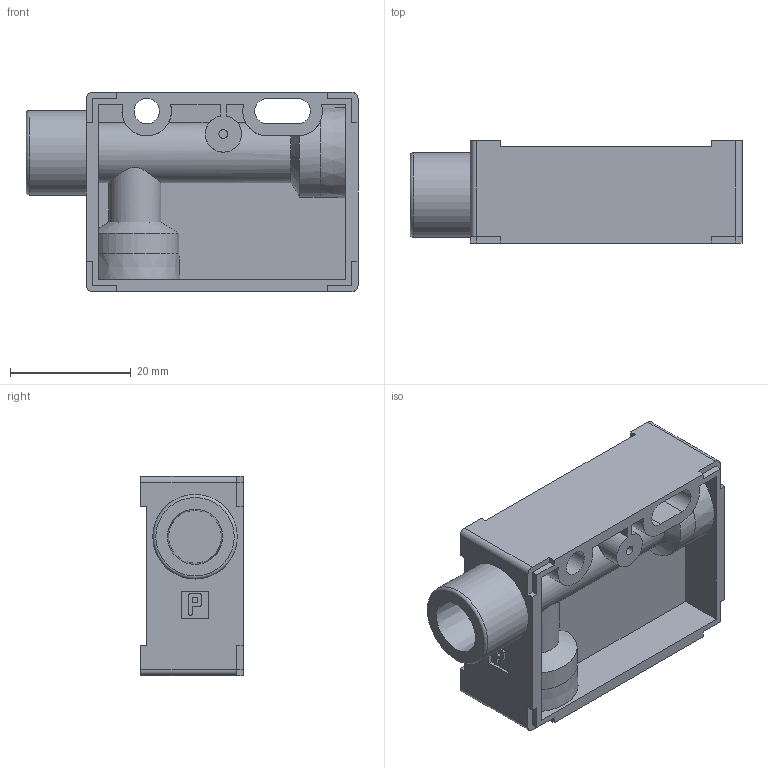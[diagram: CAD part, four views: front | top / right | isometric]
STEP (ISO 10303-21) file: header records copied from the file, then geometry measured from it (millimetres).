
FILE_DESCRIPTION(('STEP AP203'),'1');
FILE_NAME('_3D.stp','2022-12-22T08:41:27',(' '),(' '),'Spatial InterOp 3D',' ',' ');
FILE_SCHEMA(('CONFIG_CONTROL_DESIGN'));
Length unit declared in the file: millimetre
Products named in the file (1): 1
Bounding box: 55 x 17 x 33 mm (x, y, z)
Volume: 12131.1 mm3; surface area: 9485.3 mm2
Topology: 1 solids, 1 shells, 180 faces, 486 edges, 323 vertices
Faces by surface type: plane 127, cylinder 41, cone 11, torus 1
Full cylindrical faces by diameter (mm): 1.5 x2, 4.2 x1, 8.741 x3, 14 x1
Entity records: 5925 total; most frequent: CARTESIAN_POINT 1366, ORIENTED_EDGE 948, DIRECTION 896, EDGE_CURVE 474, LINE 350, VECTOR 350, VERTEX_POINT 322, AXIS2_PLACEMENT_3D 273
